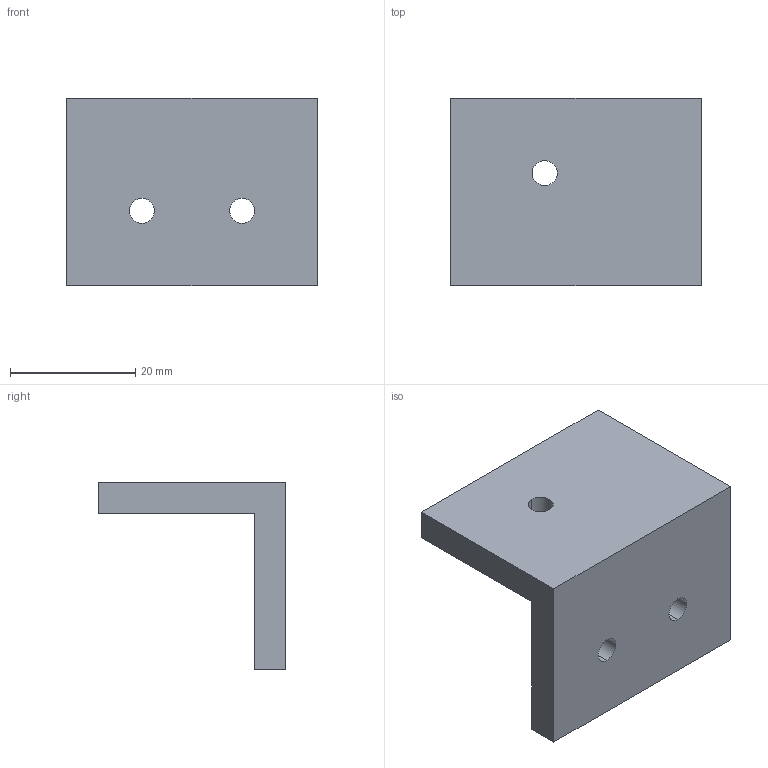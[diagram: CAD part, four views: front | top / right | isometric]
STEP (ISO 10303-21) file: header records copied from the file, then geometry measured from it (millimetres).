
FILE_DESCRIPTION (( 'STEP AP214' ), '1' );
FILE_NAME ('Escuadra grande.STEP', '2019-05-12T01:57:26', ( '' ), ( '' ), 'SwSTEP 2.0', 'SolidWorks 2018', '' );
FILE_SCHEMA (( 'AUTOMOTIVE_DESIGN' ));
Length unit declared in the file: millimetre
Products named in the file (1): Escuadra grande
Bounding box: 40 x 30 x 30 mm (x, y, z)
Volume: 10811.5 mm3; surface area: 5463.1 mm2
Topology: 1 solids, 1 shells, 14 faces, 36 edges, 24 vertices
Faces by surface type: plane 8, cylinder 6
Entity records: 478 total; most frequent: DIRECTION 78, CARTESIAN_POINT 75, ORIENTED_EDGE 72, EDGE_CURVE 36, AXIS2_PLACEMENT_3D 27, VECTOR 24, VERTEX_POINT 24, LINE 24
